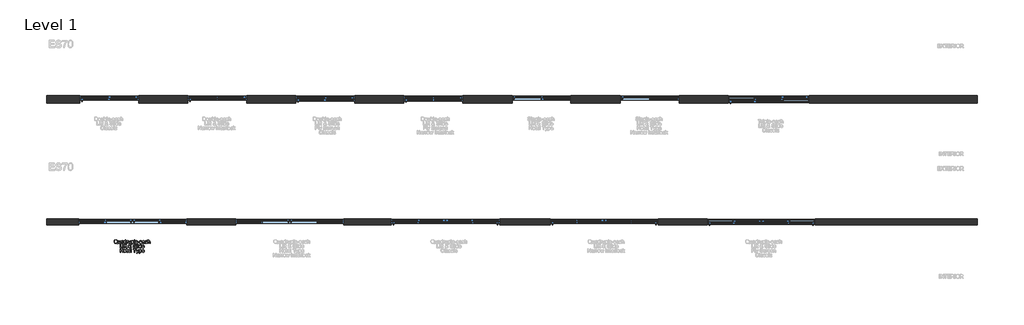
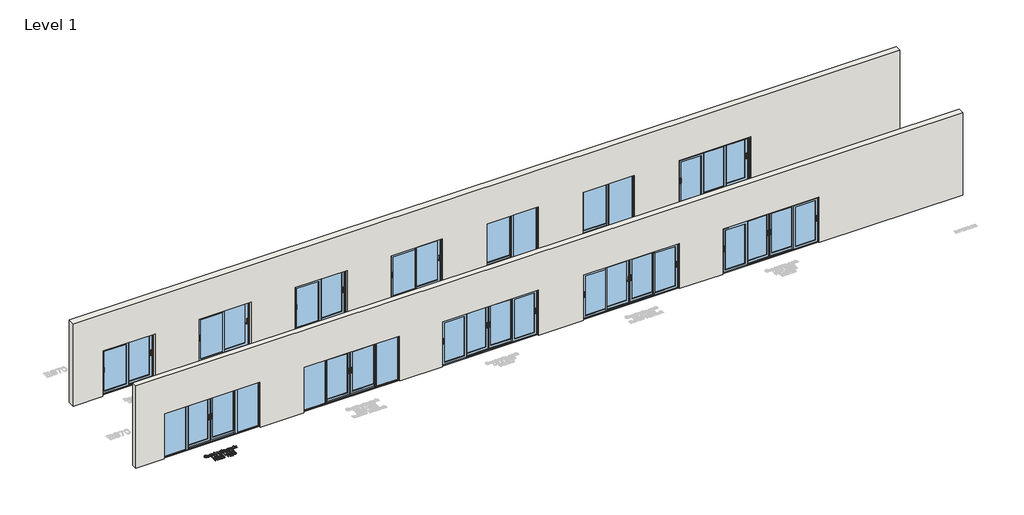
# One storey, part 1 of 13: 12 windows, 2 walls, 1 proxy.
"""IFC4 building model written with IfcOpenShell, lengths in millimetres."""

from ifc_helpers import new_model, si_unit, frame, origin, origin_with_axes, place, context, project, spatial, polyline, outline, extrude, transform, mapped, element, save
from components import type_1_3cdb790b, type_1_e79a48ff, type_1_cdd2e482, type_1_2f14744b, type_1_9f4e2c51, type_1_bc6504ef, type_1_4933372a, type_1_e41e581d, type_1_cbf24e59, type_1_9ca19b3c, type_1_95501515, type_1_6e610574, type_1_9b2b722f

model = new_model("IFC4")

# Units and contexts
model_context = context("Model", 3, world=origin())
ifc_project = project(units=[si_unit("LENGTHUNIT", "METRE", prefix="MILLI")], contexts=[model_context])

# Site, building, storey
site = spatial("IfcSite", under=ifc_project)
building = spatial("IfcBuilding", under=site)
storey = spatial("IfcBuildingStorey", under=building, Name="Level 1", Elevation=0.0)

# Proxy
placement = place(None, origin())
element("IfcBuildingElementProxy", 1, Name="150mm Arial", ObjectType="150mm Arial", at=placement, inside=storey, context=model_context, shape_type="SweptSolid", body=[
    extrude(outline(polyline([(-5302.9723357, -5879.5997474), (-5279.611829, -5895.3083086), (-5284.6886005, -5909.1038834), (-5315.7010527, -5891.4823358), (-5333.1294623, -5897.8834825), (-5352.3053113, -5900.0171981), (-5371.5731308, -5897.5569873), (-5388.9831462, -5890.1763547), (-5403.5650688, -5878.3397515), (-5414.3486097, -5862.5116287), (-5421.0118724, -5843.5611074), (-5423.2329599, -5822.3573089), (-5421.0164709, -5801.1351163), (-5414.3670038, -5781.9086836), (-5403.6248496, -5765.855233), (-5389.130299, -5754.151987), (-5371.7846629, -5747.0058793), (-5352.4892523, -5744.6238433), (-5333.0420903, -5747.0610616), (-5315.6090822, -5754.3727162), (-5301.1375243, -5766.0713637), (-5290.5747125, -5781.6695603), (-5284.1183835, -5800.3395715), (-5281.9662738, -5821.2536629), (-5287.1901981, -5854.1791015), (-5293.7476947, -5867.8367206), (-5302.9723357, -5879.5997474)]), holes=[polyline([(-5347.1181751, -5854.5469835), (-5331.2808552, -5860.534263), (-5318.4969559, -5868.8575931), (-5305.2256129, -5849.4334238), (-5300.8018319, -5822.2101561), (-5302.3653304, -5805.6324737), (-5307.0558259, -5791.2896744), (-5314.7583551, -5779.5450417), (-5325.3579551, -5770.7618591), (-5338.1372559, -5765.2850159), (-5352.3788877, -5763.4594015), (-5372.906703, -5767.152017), (-5389.6085456, -5778.2298636), (-5400.7001877, -5796.6377589), (-5404.3974018, -5822.3205207), (-5400.7415744, -5847.4514595), (-5389.7740925, -5865.9697195), (-5373.1228337, -5877.3786598), (-5352.4156759, -5881.18164), (-5332.1453779, -5877.318879), (-5351.9742175, -5868.9679577), (-5347.1181751, -5854.5469835)])]), origin_with_axes(), (0.0, 0.0, 1.0), 10.0),
    extrude(outline(polyline([(-5185.4340382, -5897.6627533), (-5185.4340382, -5878.6432542), (-5200.1861063, -5894.6737121), (-5219.4263346, -5900.0171981), (-5237.1398527, -5896.2648018), (-5249.3535349, -5886.8470227), (-5254.9637353, -5872.9778715), (-5256.0673813, -5855.4666885), (-5256.0673813, -5787.0038492), (-5237.2318232, -5787.0038492), (-5237.2318232, -5846.6007324), (-5236.091389, -5865.8041726), (-5228.6417786, -5877.0797557), (-5214.6070805, -5881.18164), (-5198.8801252, -5876.9877852), (-5188.4874588, -5865.5650493), (-5185.4340382, -5844.5773814), (-5185.4340382, -5787.0038492), (-5166.5984801, -5787.0038492), (-5166.5984801, -5897.6627533), (-5185.4340382, -5897.6627533)])), origin_with_axes(), (0.0, 0.0, 1.0), 10.0),
    extrude(outline(polyline([(-5070.0662446, -5883.5360847), (-5088.3315856, -5896.30159), (-5108.5099131, -5900.0171981), (-5124.2506639, -5897.782315), (-5135.8619394, -5891.0776656), (-5143.0218427, -5880.8965314), (-5145.4084772, -5868.2321937), (-5141.8032336, -5853.3329729), (-5132.3302722, -5842.5172423), (-5119.1417027, -5836.3368247), (-5102.8445303, -5833.5041334), (-5070.1766092, -5827.0294103), (-5070.0662446, -5822.8355555), (-5071.3630286, -5814.4294519), (-5075.2533807, -5808.9296161), (-5083.9537899, -5804.846126), (-5096.0755016, -5803.4849626), (-5115.131789, -5807.1086002), (-5124.2184742, -5819.966076), (-5143.0540324, -5817.6116312), (-5134.9054462, -5799.2175314), (-5118.4979092, -5788.438589), (-5093.6474804, -5784.6494044), (-5070.8204026, -5787.9971306), (-5057.9261387, -5796.4032342), (-5052.1503914, -5809.1871335), (-5051.2306864, -5825.6682469), (-5051.2306864, -5849.10233), (-5050.2741932, -5881.8254334), (-5046.5217969, -5897.6627533), (-5065.357355, -5897.6627533), (-5070.0662446, -5883.5360847)]), holes=[polyline([(-5070.0662446, -5845.8649684), (-5100.4532974, -5851.6407157), (-5116.6584992, -5854.6941363), (-5123.9977451, -5859.6605432), (-5126.572919, -5866.9078185), (-5120.9627186, -5877.0981498), (-5104.4999993, -5881.18164), (-5085.443712, -5876.6750855), (-5073.1564533, -5865.7673844), (-5070.1766092, -5851.1992574), (-5070.0662446, -5845.8649684)])]), origin_with_axes(), (0.0, 0.0, 1.0), 10.0),
    extrude(outline(polyline([(-4957.0528956, -5897.6627533), (-4957.0528956, -5879.894053), (-4969.5148982, -5894.9864118), (-4986.7409727, -5900.0171981), (-4998.9178667, -5898.1961822), (-5010.0646911, -5892.7331346), (-5019.5008643, -5884.0097328), (-5026.5458045, -5872.4076544), (-5030.9327973, -5858.3959489), (-5032.3951283, -5842.4436659), (-5027.005657, -5812.4612833), (-5020.2734165, -5800.5694978), (-5010.8556374, -5791.8231033), (-4999.4650912, -5786.4428292), (-4986.8145491, -5784.6494044), (-4969.4505189, -5789.7813583), (-4957.0528956, -5803.1170806), (-4957.0528956, -5746.9782881), (-4938.2173375, -5746.9782881), (-4938.2173375, -5897.6627533), (-4957.0528956, -5897.6627533)]), holes=[polyline([(-5013.5595701, -5842.3700895), (-5011.4350516, -5859.4076244), (-5005.061496, -5871.5247376), (-4995.8000668, -5878.7674144), (-4985.0119273, -5881.18164), (-4974.2283863, -5878.877779), (-4965.2014818, -5871.966196), (-4959.0900422, -5860.3181323), (-4957.0528956, -5843.8048292), (-4959.1268304, -5825.7510203), (-4965.3486346, -5813.2338354), (-4974.6054653, -5805.9221808), (-4985.7844795, -5803.4849626), (-4996.6829836, -5805.8256118), (-5005.613319, -5812.8475594), (-5011.5730073, -5824.9094903), (-5013.5595701, -5842.3700895)])]), origin_with_axes(), (0.0, 0.0, 1.0), 10.0),
    extrude(outline(polyline([(-4909.9640003, -5897.6627533), (-4909.9640003, -5787.0038492), (-4893.4828869, -5787.0038492), (-4893.4828869, -5803.374598), (-4881.7842394, -5788.2914362), (-4870.0120156, -5784.6494044), (-4851.102881, -5790.4619399), (-4857.3936631, -5807.3477235), (-4870.637415, -5803.4849626), (-4881.2875987, -5807.2005707), (-4888.0750215, -5817.5012666), (-4891.1284421, -5839.5006099), (-4891.1284421, -5897.6627533), (-4909.9640003, -5897.6627533)])), origin_with_axes(), (0.0, 0.0, 1.0), 10.0),
    extrude(outline(polyline([(-4768.6973141, -5897.6627533), (-4768.6973141, -5878.6432542), (-4783.4493821, -5894.6737121), (-4802.6896105, -5900.0171981), (-4820.4031285, -5896.2648018), (-4832.6168108, -5886.8470227), (-4838.2270112, -5872.9778715), (-4839.3306572, -5855.4666885), (-4839.3306572, -5787.0038492), (-4820.495099, -5787.0038492), (-4820.495099, -5846.6007324), (-4819.3546648, -5865.8041726), (-4811.9050544, -5877.0797557), (-4797.8703563, -5881.18164), (-4782.143401, -5876.9877852), (-4771.7507347, -5865.5650493), (-4768.6973141, -5844.5773814), (-4768.6973141, -5787.0038492), (-4749.861756, -5787.0038492), (-4749.861756, -5897.6627533), (-4768.6973141, -5897.6627533)])), origin_with_axes(), (0.0, 0.0, 1.0), 10.0),
    extrude(outline(polyline([(-4723.9628635, -5940.0427592), (-4723.9628635, -5787.0038492), (-4705.1273053, -5787.0038492), (-4705.1273053, -5805.4715254), (-4692.1042827, -5789.8549347), (-4674.5195233, -5784.6494044), (-4661.7816093, -5786.4704203), (-4650.6439819, -5791.9334679), (-4641.5756907, -5800.7074535), (-4635.0457853, -5812.4612833), (-4629.7850727, -5841.4871727), (-4631.2703963, -5857.5958055), (-4635.726367, -5872.0029842), (-4643.0104305, -5883.9775431), (-4652.9800325, -5892.7883169), (-4664.591308, -5898.2099778), (-4676.8003917, -5900.0171981), (-4693.1895346, -5895.1795499), (-4705.1273053, -5882.9474735), (-4705.1273053, -5940.0427592), (-4723.9628635, -5940.0427592)]), holes=[polyline([(-4705.1273053, -5843.2162181), (-4703.0901588, -5860.1020016), (-4696.9787192, -5871.9110137), (-4687.9610117, -5878.8639834), (-4677.2050619, -5881.18164), (-4666.2743681, -5878.7812099), (-4657.0267345, -5871.5799199), (-4650.7221568, -5859.3386465), (-4648.6206309, -5841.8182665), (-4650.671573, -5825.0244534), (-4656.8243994, -5813.0498945), (-4665.8283112, -5805.8761955), (-4676.4325097, -5803.4849626), (-4687.078095, -5806.0279469), (-4696.4268962, -5813.6568997), (-4702.952203, -5826.1326979), (-4705.1273053, -5843.2162181)])]), origin_with_axes(), (0.0, 0.0, 1.0), 10.0),
    extrude(outline(polyline([(-4608.5950698, -5897.6627533), (-4608.5950698, -5746.9782881), (-4589.7595117, -5746.9782881), (-4589.7595117, -5897.6627533), (-4608.5950698, -5897.6627533)])), origin_with_axes(), (0.0, 0.0, 1.0), 10.0),
    extrude(outline(polyline([(-4484.0302262, -5864.7005266), (-4465.5625501, -5867.0549713), (-4472.2166157, -5880.9701078), (-4482.8346098, -5891.3719712), (-4497.177409, -5897.8558914), (-4515.0058902, -5900.0171981), (-4537.1064011, -5896.2877944), (-4554.1117463, -5885.0995832), (-4564.9550681, -5867.1791315), (-4568.5695087, -5843.2530063), (-4564.9182799, -5818.5221391), (-4553.9645935, -5800.0268718), (-4537.1891745, -5788.4937713), (-4516.072748, -5784.6494044), (-4495.6139106, -5788.4845742), (-4479.2661544, -5799.9900836), (-4468.5469928, -5818.4485627), (-4464.9739389, -5843.1426417), (-4465.0843035, -5848.2194132), (-4549.7339506, -5848.2194132), (-4546.4735964, -5862.3184907), (-4538.8998258, -5872.6835659), (-4527.969132, -5879.0571214), (-4514.6380082, -5881.18164), (-4496.1703321, -5877.2453026), (-4484.0302262, -5864.7005266)]), holes=[polyline([(-4549.7339506, -5829.383855), (-4483.809497, -5829.383855), (-4486.3570799, -5819.4326471), (-4491.3510779, -5812.3141305), (-4502.3323555, -5805.6922545), (-4516.1463244, -5803.4849626), (-4528.8428518, -5805.2461976), (-4539.3412842, -5810.5299028), (-4546.6391433, -5818.765861), (-4549.7339506, -5829.383855)])]), origin_with_axes(), (0.0, 0.0, 1.0), 10.0),
    extrude(outline(polyline([(-4455.5561598, -5852.9283027), (-4455.5561598, -5834.0927446), (-4396.6950406, -5834.0927446), (-4396.6950406, -5852.9283027), (-4455.5561598, -5852.9283027)])), origin_with_axes(), (0.0, 0.0, 1.0), 10.0),
    extrude(outline(polyline([(-4382.568372, -5864.7005266), (-4363.7328138, -5862.3460818), (-4360.7621667, -5870.4026975), (-4355.0140105, -5876.3255976), (-4335.0380182, -5881.18164), (-4315.834578, -5876.7302678), (-4309.5805841, -5866.2824192), (-4311.1532797, -5861.4815591), (-4315.8713662, -5857.8211333), (-4335.2587474, -5852.4500561), (-4363.6224492, -5843.2346122), (-4376.0016784, -5832.4740638), (-4380.2139272, -5817.2805374), (-4376.8294128, -5803.2458393), (-4367.5955748, -5792.5220791), (-4355.6210158, -5786.9486669), (-4339.4158139, -5784.6494044), (-4316.4967656, -5788.3466185), (-4301.9286386, -5798.3530087), (-4295.4539155, -5815.2571864), (-4314.2894737, -5817.6116312), (-4321.3712021, -5807.2189648), (-4337.944286, -5803.4849626), (-4355.9705037, -5807.0534179), (-4361.3783691, -5815.367551), (-4359.1342889, -5820.8489927), (-4352.1077428, -5825.0060593), (-4335.8841468, -5829.015973), (-4308.2378148, -5837.8819291), (-4295.3987332, -5847.9251076), (-4290.745026, -5864.2958564), (-4296.2080736, -5882.3220741), (-4311.9718171, -5895.4002791), (-4335.2955356, -5900.0171981), (-4354.2874436, -5897.791512), (-4368.1473978, -5891.1144538), (-4377.3996299, -5880.0595999), (-4382.568372, -5864.7005266)])), origin_with_axes(), (0.0, 0.0, 1.0), 10.0),
    extrude(outline(polyline([(-4198.92168, -5883.5360847), (-4217.187021, -5896.30159), (-4237.3653485, -5900.0171981), (-4253.1060993, -5897.782315), (-4264.7173748, -5891.0776656), (-4271.8772781, -5880.8965314), (-4274.2639126, -5868.2321937), (-4270.658669, -5853.3329729), (-4261.1857077, -5842.5172423), (-4247.9971381, -5836.3368247), (-4231.6999658, -5833.5041334), (-4199.0320446, -5827.0294103), (-4198.92168, -5822.8355555), (-4200.218464, -5814.4294519), (-4204.1088161, -5808.9296161), (-4212.8092253, -5804.846126), (-4224.930937, -5803.4849626), (-4243.9872244, -5807.1086002), (-4253.0739097, -5819.966076), (-4271.9094678, -5817.6116312), (-4263.7608816, -5799.2175314), (-4247.3533446, -5788.438589), (-4222.5029159, -5784.6494044), (-4199.6758381, -5787.9971306), (-4186.7815741, -5796.4032342), (-4181.0058268, -5809.1871335), (-4180.0861218, -5825.6682469), (-4180.0861218, -5849.10233), (-4179.1296286, -5881.8254334), (-4175.3772323, -5897.6627533), (-4194.2127904, -5897.6627533), (-4198.92168, -5883.5360847)]), holes=[polyline([(-4198.92168, -5845.8649684), (-4229.3087328, -5851.6407157), (-4245.5139347, -5854.6941363), (-4252.8531805, -5859.6605432), (-4255.4283544, -5866.9078185), (-4249.818154, -5877.0981498), (-4233.3554347, -5881.18164), (-4214.2991474, -5876.6750855), (-4202.0118887, -5865.7673844), (-4199.0320446, -5851.1992574), (-4198.92168, -5845.8649684)])]), origin_with_axes(), (0.0, 0.0, 1.0), 10.0),
    extrude(outline(polyline([(-4161.2505637, -5864.7005266), (-4142.4150055, -5862.3460818), (-4139.4443584, -5870.4026975), (-4133.6962022, -5876.3255976), (-4113.7202099, -5881.18164), (-4094.5167697, -5876.7302678), (-4088.2627758, -5866.2824192), (-4089.8354714, -5861.4815591), (-4094.5535579, -5857.8211333), (-4113.9409391, -5852.4500561), (-4142.3046409, -5843.2346122), (-4154.6838701, -5832.4740638), (-4158.8961189, -5817.2805374), (-4155.5116045, -5803.2458393), (-4146.2777665, -5792.5220791), (-4134.3032075, -5786.9486669), (-4118.0980056, -5784.6494044), (-4095.1789573, -5788.3466185), (-4080.6108303, -5798.3530087), (-4074.1361072, -5815.2571864), (-4092.9716654, -5817.6116312), (-4100.0533938, -5807.2189648), (-4116.6264777, -5803.4849626), (-4134.6526954, -5807.0534179), (-4140.0605608, -5815.367551), (-4137.8164806, -5820.8489927), (-4130.7899345, -5825.0060593), (-4114.5663385, -5829.015973), (-4086.9200065, -5837.8819291), (-4074.0809249, -5847.9251076), (-4069.4272177, -5864.2958564), (-4074.8902653, -5882.3220741), (-4090.6540088, -5895.4002791), (-4113.9777273, -5900.0171981), (-4132.9696353, -5897.791512), (-4146.8295895, -5891.1144538), (-4156.0818216, -5880.0595999), (-4161.2505637, -5864.7005266)])), origin_with_axes(), (0.0, 0.0, 1.0), 10.0),
    extrude(outline(polyline([(-4048.2372148, -5897.6627533), (-4048.2372148, -5746.9782881), (-4029.4016566, -5746.9782881), (-4029.4016566, -5802.3813166), (-4014.7139679, -5789.0823825), (-3996.6233708, -5784.6494044), (-3975.4701561, -5789.4870527), (-3962.6310745, -5802.8595632), (-3958.7683135, -5827.6180215), (-3958.7683135, -5897.6627533), (-3977.6038717, -5897.6627533), (-3977.6038717, -5829.567796), (-3979.1029908, -5817.7771781), (-3983.6003482, -5809.7021683), (-3990.8476235, -5805.039264), (-4000.5964964, -5803.4849626), (-4016.0291461, -5807.6788173), (-4026.3298419, -5819.046371), (-4029.4016566, -5838.8752105), (-4029.4016566, -5897.6627533), (-4048.2372148, -5897.6627533)])), origin_with_axes(), (0.0, 0.0, 1.0), 10.0),
    extrude(outline(polyline([(-5174.8390368, -6080.6249801), (-5174.8390368, -5929.9405149), (-5156.0034786, -5929.9405149), (-5156.0034786, -6061.789422), (-5080.661246, -6061.789422), (-5080.661246, -6080.6249801), (-5174.8390368, -6080.6249801)])), origin_with_axes(), (0.0, 0.0, 1.0), 10.0),
    extrude(outline(polyline([(-5061.8256879, -5948.776073), (-5061.8256879, -5929.9405149), (-5042.9901297, -5929.9405149), (-5042.9901297, -5948.776073), (-5061.8256879, -5948.776073)])), origin_with_axes(), (0.0, 0.0, 1.0), 10.0),
    extrude(outline(polyline([(-5061.8256879, -6080.6249801), (-5061.8256879, -5969.966076), (-5042.9901297, -5969.966076), (-5042.9901297, -6080.6249801), (-5061.8256879, -6080.6249801)])), origin_with_axes(), (0.0, 0.0, 1.0), 10.0),
    extrude(outline(polyline([(-4913.4956674, -6064.9164189), (-4911.1412226, -6081.1768031), (-4925.2311031, -6082.9794249), (-4941.0132407, -6079.8524279), (-4948.8859153, -6071.6486594), (-4951.1667837, -6050.2747155), (-4951.1667837, -5988.8016341), (-4965.2934523, -5988.8016341), (-4965.2934523, -5969.966076), (-4951.1667837, -5969.966076), (-4951.1667837, -5943.0739021), (-4932.3312256, -5932.0006541), (-4932.3312256, -5969.966076), (-4913.4956674, -5969.966076), (-4913.4956674, -5988.8016341), (-4932.3312256, -5988.8016341), (-4932.3312256, -6049.7228925), (-4931.3379442, -6059.4349772), (-4928.1189767, -6062.8746738), (-4921.6994359, -6064.1438667), (-4913.4956674, -6064.9164189)])), origin_with_axes(), (0.0, 0.0, 1.0), 10.0),
    extrude(outline(polyline([(-5010.0279029, -6080.6249801), (-5010.0279029, -5988.8016341), (-5026.5090163, -5988.8016341), (-5026.5090163, -5969.966076), (-5010.0279029, -5969.966076), (-5010.0279029, -5958.8192515), (-5008.0413402, -5943.1106903), (-4998.4028319, -5931.8902895), (-4979.4201209, -5927.5860701), (-4962.2400318, -5929.6462093), (-4964.9991467, -5947.3045451), (-4975.8516656, -5946.4216283), (-4987.7158599, -5949.5486252), (-4991.1923448, -5961.2104845), (-4991.1923448, -5969.966076), (-4970.0023419, -5969.966076), (-4970.0023419, -5988.8016341), (-4991.1923448, -5988.8016341), (-4991.1923448, -6080.6249801), (-5010.0279029, -6080.6249801)])), origin_with_axes(), (0.0, 0.0, 1.0), 10.0),
    extrude(outline(polyline([(-4749.3835094, -6062.0101512), (-4769.3595017, -6077.7371064), (-4792.7200084, -6082.9794249), (-4813.5053411, -6079.0982698), (-4829.5082079, -6067.4548047), (-4837.7579617, -6054.054703), (-4840.5078796, -6039.1646793), (-4838.2959891, -6025.9669127), (-4831.6603176, -6014.1119154), (-4820.6284563, -6003.6088844), (-4805.2279962, -5994.4670168), (-4818.3797776, -5975.4107295), (-4821.6723214, -5961.2840609), (-4819.0787533, -5948.5645409), (-4811.2980492, -5937.6292486), (-4799.5902047, -5930.0968647), (-4785.2152157, -5927.5860701), (-4771.5392025, -5929.9865001), (-4760.6039102, -5937.1877902), (-4753.4302113, -5947.7552005), (-4751.0389783, -5960.2539913), (-4752.8094104, -5970.7478252), (-4758.1207067, -5980.4507128), (-4779.365892, -5997.4836492), (-4752.1058361, -6031.4391574), (-4743.975644, -6010.5802482), (-4725.1400859, -6014.6637384), (-4738.4574141, -6045.6761906), (-4715.7223068, -6068.4848743), (-4729.8489754, -6082.9794249), (-4749.3835094, -6062.0101512)]), holes=[polyline([(-4788.8940356, -5985.6010608), (-4773.4062036, -5973.9208074), (-4769.8745365, -5962.8291653), (-4774.5282437, -5951.0017591), (-4786.1717089, -5946.4216283), (-4798.0726914, -5950.9649709), (-4802.8367633, -5962.0566131), (-4801.2180825, -5968.9544005), (-4796.3252519, -5976.6247401), (-4788.8940356, -5985.6010608)]), polyline([(-4762.0018618, -6048.4353055), (-4795.6262762, -6006.4599699), (-4816.3196384, -6022.2421075), (-4821.6723214, -6036.6630817), (-4819.8421085, -6045.5474319), (-4814.3514697, -6054.7628758), (-4805.5039077, -6061.798619), (-4793.6029252, -6064.1438667), (-4776.2940773, -6059.766071), (-4762.0018618, -6048.4353055)])]), origin_with_axes(), (0.0, 0.0, 1.0), 10.0),
    extrude(outline(polyline([(-4642.734519, -6028.8271952), (-4623.8989608, -6028.8271952), (-4617.8289079, -6047.6811474), (-4603.0032635, -6059.6005241), (-4580.415309, -6064.1438667), (-4560.7336222, -6060.7041701), (-4548.0232993, -6051.2496028), (-4543.8478387, -6038.6128563), (-4546.9748356, -6026.8590265), (-4559.777129, -6018.3057701), (-4587.2027318, -6011.1136771), (-4616.7252619, -6001.8246567), (-4632.7465228, -5987.8083527), (-4638.0256294, -5969.0831592), (-4636.3931531, -5958.0512978), (-4631.495724, -5947.7643976), (-4623.4621009, -5939.0455943), (-4612.4210426, -5932.7180239), (-4584.4987991, -5927.5860701), (-4554.7003575, -5932.9571472), (-4543.2776216, -5939.5882202), (-4534.8347298, -5948.7392848), (-4529.4912438, -5959.840124), (-4527.3667253, -5972.3205207), (-4546.2022834, -5972.3205207), (-4549.6603742, -5961.0817258), (-4556.8708613, -5952.9699278), (-4568.1372474, -5948.0587031), (-4583.7630351, -5946.4216283), (-4599.7567049, -5948.040309), (-4610.7287854, -5952.8963514), (-4617.0747498, -5960.0424591), (-4619.1900713, -5968.5313362), (-4617.6909521, -5975.7694144), (-4613.1935947, -5981.591147), (-4582.43866, -5992.1125721), (-4549.1085512, -6001.5671393), (-4538.3709955, -6008.4005474), (-4530.8799983, -6016.8342421), (-4526.47921, -6026.7762531), (-4525.0122805, -6038.1346097), (-4526.6999392, -6049.7458851), (-4531.7629151, -6060.6673819), (-4539.9942748, -6070.0667668), (-4551.1870845, -6077.1117071), (-4564.646967, -6081.5124954), (-4579.679545, -6082.9794249), (-4598.1334256, -6081.3975323), (-4613.3223534, -6076.6518546), (-4625.4210726, -6068.7239976), (-4634.6043269, -6057.5955672), (-4640.4996358, -6044.0391157), (-4642.734519, -6028.8271952)])), origin_with_axes(), (0.0, 0.0, 1.0), 10.0),
    extrude(outline(polyline([(-4499.113388, -6080.6249801), (-4499.113388, -5929.9405149), (-4480.2778299, -5929.9405149), (-4480.2778299, -6080.6249801), (-4499.113388, -6080.6249801)])), origin_with_axes(), (0.0, 0.0, 1.0), 10.0),
    extrude(outline(polyline([(-4452.0244927, -5948.776073), (-4452.0244927, -5929.9405149), (-4433.1889345, -5929.9405149), (-4433.1889345, -5948.776073), (-4452.0244927, -5948.776073)])), origin_with_axes(), (0.0, 0.0, 1.0), 10.0),
    extrude(outline(polyline([(-4452.0244927, -6080.6249801), (-4452.0244927, -5969.966076), (-4433.1889345, -5969.966076), (-4433.1889345, -6080.6249801), (-4452.0244927, -6080.6249801)])), origin_with_axes(), (0.0, 0.0, 1.0), 10.0),
    extrude(outline(polyline([(-4336.656699, -6080.6249801), (-4336.656699, -6062.8562797), (-4349.1187016, -6077.9486386), (-4366.344776, -6082.9794249), (-4378.52167, -6081.158409), (-4389.6684945, -6075.6953614), (-4399.1046677, -6066.9719596), (-4406.1496079, -6055.3698811), (-4410.5366007, -6041.3581756), (-4411.9989316, -6025.4058926), (-4406.6094604, -5995.42351), (-4399.8772198, -5983.5317245), (-4390.4594408, -5974.7853301), (-4379.0688945, -5969.4050559), (-4366.4183524, -5967.6116312), (-4349.0543222, -5972.743585), (-4336.656699, -5986.0793073), (-4336.656699, -5929.9405149), (-4317.8211408, -5929.9405149), (-4317.8211408, -6080.6249801), (-4336.656699, -6080.6249801)]), holes=[polyline([(-4393.1633734, -6025.3323162), (-4391.0388549, -6042.3698511), (-4384.6652993, -6054.4869644), (-4375.4038701, -6061.7296411), (-4364.6157306, -6064.1438667), (-4353.8321896, -6061.8400057), (-4344.8052852, -6054.9284227), (-4338.6938455, -6043.2803591), (-4336.656699, -6026.767056), (-4338.7306337, -6008.7132471), (-4344.952438, -5996.1960622), (-4354.2092687, -5988.8844076), (-4365.3882828, -5986.4471893), (-4376.2867869, -5988.7878385), (-4385.2171223, -5995.8097861), (-4391.1768107, -6007.871717), (-4393.1633734, -6025.3323162)])]), origin_with_axes(), (0.0, 0.0, 1.0), 10.0),
    extrude(outline(polyline([(-4212.0918554, -6047.6627533), (-4193.6241792, -6050.0171981), (-4200.2782448, -6063.9323346), (-4210.8962389, -6074.334198), (-4225.2390382, -6080.8181182), (-4243.0675194, -6082.9794249), (-4265.1680303, -6079.2500212), (-4282.1733755, -6068.06181), (-4293.0166973, -6050.1413583), (-4296.6311379, -6026.215233), (-4292.9799091, -6001.4843659), (-4282.0262227, -5982.9890986), (-4265.2508037, -5971.455998), (-4244.1343772, -5967.6116312), (-4223.6755397, -5971.446801), (-4207.3277836, -5982.9523104), (-4196.6086219, -6001.4107895), (-4193.0355681, -6026.1048684), (-4193.1459327, -6031.18164), (-4277.7955797, -6031.18164), (-4274.5352256, -6045.2807174), (-4266.961455, -6055.6457926), (-4256.0307612, -6062.0193482), (-4242.6996374, -6064.1438667), (-4224.2319612, -6060.2075294), (-4212.0918554, -6047.6627533)]), holes=[polyline([(-4277.7955797, -6012.3460818), (-4211.8711262, -6012.3460818), (-4214.418709, -6002.3948738), (-4219.4127071, -5995.2763572), (-4230.3939847, -5988.6544813), (-4244.2079536, -5986.4471893), (-4256.9044809, -5988.2084244), (-4267.4029134, -5993.4921296), (-4274.7007725, -6001.7280877), (-4277.7955797, -6012.3460818)])]), origin_with_axes(), (0.0, 0.0, 1.0), 10.0),
    extrude(outline(polyline([(-5176.0162592, -6263.5872069), (-5176.0162592, -6112.9027417), (-5157.180701, -6112.9027417), (-5157.180701, -6174.1183057), (-5077.1295789, -6174.1183057), (-5077.1295789, -6112.9027417), (-5058.2940207, -6112.9027417), (-5058.2940207, -6263.5872069), (-5077.1295789, -6263.5872069), (-5077.1295789, -6192.9538638), (-5157.180701, -6192.9538638), (-5157.180701, -6263.5872069), (-5176.0162592, -6263.5872069)])), origin_with_axes(), (0.0, 0.0, 1.0), 10.0),
    extrude(outline(polyline([(-5032.3951283, -6208.2577548), (-5028.3208352, -6181.5771131), (-5016.0979559, -6162.8243284), (-5000.9964, -6153.6364756), (-4982.9149999, -6150.573858), (-4963.1275471, -6154.3032617), (-4947.3224169, -6165.4914729), (-4936.9619402, -6183.2555747), (-4933.5084479, -6206.7126504), (-4935.0351582, -6225.7413466), (-4939.6152891, -6240.2267002), (-4947.1154832, -6251.0746205), (-4957.4023835, -6259.191017), (-4969.6206643, -6264.253993), (-4982.9149999, -6265.9416516), (-5002.941576, -6262.2260435), (-5018.7283121, -6251.079219), (-5028.9784242, -6232.9426367), (-5032.3951283, -6208.2577548)]), holes=[polyline([(-5013.5595701, -6208.2209666), (-5011.3798693, -6225.2676986), (-5004.8407668, -6237.4124029), (-4994.9999234, -6244.6826709), (-4982.9149999, -6247.1060935), (-4970.8852587, -6244.6688753), (-4961.0628094, -6237.3572206), (-4954.5237069, -6225.0515679), (-4952.3440061, -6207.6323554), (-4954.5375025, -6191.0822642), (-4961.1179917, -6179.1031067), (-4970.9542365, -6171.8328388), (-4982.9149999, -6169.4094161), (-4994.9999234, -6171.8236417), (-5004.8407668, -6179.0663185), (-5011.3798693, -6191.1834317), (-5013.5595701, -6208.2209666)])]), origin_with_axes(), (0.0, 0.0, 1.0), 10.0),
    extrude(outline(polyline([(-4872.292884, -6247.8786457), (-4869.9384392, -6264.1390299), (-4884.0283196, -6265.9416516), (-4899.8104572, -6262.8146547), (-4907.6831319, -6254.6108862), (-4909.9640003, -6233.2369423), (-4909.9640003, -6171.7638609), (-4924.0906689, -6171.7638609), (-4924.0906689, -6152.9283027), (-4909.9640003, -6152.9283027), (-4909.9640003, -6126.0361289), (-4891.1284421, -6114.9628808), (-4891.1284421, -6152.9283027), (-4872.292884, -6152.9283027), (-4872.292884, -6171.7638609), (-4891.1284421, -6171.7638609), (-4891.1284421, -6232.6851193), (-4890.1351607, -6242.397204), (-4886.9161933, -6245.8369006), (-4880.4966524, -6247.1060935), (-4872.292884, -6247.8786457)])), origin_with_axes(), (0.0, 0.0, 1.0), 10.0),
    extrude(outline(polyline([(-4775.9813776, -6230.6249801), (-4757.5137015, -6232.9794249), (-4764.167767, -6246.8945613), (-4774.7857611, -6257.2964248), (-4789.1285604, -6263.7803449), (-4806.9570416, -6265.9416516), (-4829.0575525, -6262.2122479), (-4846.0628977, -6251.0240367), (-4856.9062195, -6233.1035851), (-4860.5206601, -6209.1774598), (-4856.8694313, -6184.4465927), (-4845.9157449, -6165.9513254), (-4829.1403259, -6154.4182248), (-4808.0238994, -6150.573858), (-4787.5650619, -6154.4090278), (-4771.2173058, -6165.9145372), (-4760.4981441, -6184.3730163), (-4756.9250903, -6209.0670952), (-4757.0354549, -6214.1438667), (-4841.685102, -6214.1438667), (-4838.4247478, -6228.2429442), (-4830.8509772, -6238.6080194), (-4819.9202834, -6244.981575), (-4806.5891596, -6247.1060935), (-4788.1214835, -6243.1697561), (-4775.9813776, -6230.6249801)]), holes=[polyline([(-4841.685102, -6195.3083086), (-4775.7606484, -6195.3083086), (-4778.3082312, -6185.3571006), (-4783.3022293, -6178.238584), (-4794.2835069, -6171.6167081), (-4808.0974758, -6169.4094161), (-4820.7940032, -6171.1706512), (-4831.2924356, -6176.4543563), (-4838.5902947, -6184.6903145), (-4841.685102, -6195.3083086)])]), origin_with_axes(), (0.0, 0.0, 1.0), 10.0),
    extrude(outline(polyline([(-4738.0895321, -6263.5872069), (-4738.0895321, -6112.9027417), (-4719.253974, -6112.9027417), (-4719.253974, -6263.5872069), (-4738.0895321, -6263.5872069)])), origin_with_axes(), (0.0, 0.0, 1.0), 10.0),
    extrude(outline(polyline([(-4592.1139564, -6263.5872069), (-4592.1139564, -6131.7382998), (-4641.5572966, -6131.7382998), (-4641.5572966, -6112.9027417), (-4523.8350581, -6112.9027417), (-4523.8350581, -6131.7382998), (-4573.2783983, -6131.7382998), (-4573.2783983, -6263.5872069), (-4592.1139564, -6263.5872069)])), origin_with_axes(), (0.0, 0.0, 1.0), 10.0),
    extrude(outline(polyline([(-4504.9995, -6305.9672127), (-4507.3539447, -6287.8306304), (-4497.7890129, -6289.4860993), (-4488.8494804, -6287.4075661), (-4483.3680387, -6281.6134246), (-4478.2176907, -6267.7442734), (-4476.7461627, -6263.1825367), (-4516.7717238, -6152.9283027), (-4496.9060961, -6152.9283027), (-4475.679305, -6214.3645959), (-4468.2848768, -6238.9391132), (-4460.8904487, -6217.2340755), (-4439.0750464, -6152.9283027), (-4419.3565715, -6152.9283027), (-4457.8738164, -6266.2359572), (-4467.8802067, -6290.8104745), (-4478.8063019, -6304.0910145), (-4493.4847935, -6308.3216575), (-4504.9995, -6305.9672127)])), origin_with_axes(), (0.0, 0.0, 1.0), 10.0),
    extrude(outline(polyline([(-4403.7583749, -6305.9672127), (-4403.7583749, -6152.9283027), (-4384.9228167, -6152.9283027), (-4384.9228167, -6171.3959789), (-4371.8997941, -6155.7793882), (-4354.3150347, -6150.573858), (-4341.5771207, -6152.3948738), (-4330.4394933, -6157.8579215), (-4321.3712021, -6166.631907), (-4314.8412967, -6178.3857368), (-4309.5805841, -6207.4116262), (-4311.0659077, -6223.5202591), (-4315.5218784, -6237.9274377), (-4322.8059419, -6249.9019967), (-4332.7755439, -6258.7127704), (-4344.3868194, -6264.1344313), (-4356.5959031, -6265.9416516), (-4372.985046, -6261.1040034), (-4384.9228167, -6248.8719271), (-4384.9228167, -6305.9672127), (-4403.7583749, -6305.9672127)]), holes=[polyline([(-4384.9228167, -6209.1406716), (-4382.8856702, -6226.0264552), (-4376.7742305, -6237.8354672), (-4367.7565231, -6244.7884369), (-4357.0005733, -6247.1060935), (-4346.0698795, -6244.7056635), (-4336.8222459, -6237.5043734), (-4330.5176682, -6225.2631), (-4328.4161423, -6207.74272), (-4330.4670844, -6190.9489069), (-4336.6199108, -6178.974348), (-4345.6238226, -6171.8006491), (-4356.2280211, -6169.4094161), (-4366.8736064, -6171.9524004), (-4376.2224076, -6179.5813533), (-4382.7477144, -6192.0571514), (-4384.9228167, -6209.1406716)])]), origin_with_axes(), (0.0, 0.0, 1.0), 10.0),
    extrude(outline(polyline([(-4210.914633, -6230.6249801), (-4192.4469569, -6232.9794249), (-4199.1010225, -6246.8945613), (-4209.7190165, -6257.2964248), (-4224.0618158, -6263.7803449), (-4241.890297, -6265.9416516), (-4263.9908079, -6262.2122479), (-4280.9961531, -6251.0240367), (-4291.8394749, -6233.1035851), (-4295.4539155, -6209.1774598), (-4291.8026867, -6184.4465927), (-4280.8490003, -6165.9513254), (-4264.0735813, -6154.4182248), (-4242.9571548, -6150.573858), (-4222.4983173, -6154.4090278), (-4206.1505612, -6165.9145372), (-4195.4313996, -6184.3730163), (-4191.8583457, -6209.0670952), (-4191.9687103, -6214.1438667), (-4276.6183574, -6214.1438667), (-4273.3580032, -6228.2429442), (-4265.7842326, -6238.6080194), (-4254.8535388, -6244.981575), (-4241.522415, -6247.1060935), (-4223.0547389, -6243.1697561), (-4210.914633, -6230.6249801)]), holes=[polyline([(-4276.6183574, -6195.3083086), (-4210.6939038, -6195.3083086), (-4213.2414866, -6185.3571006), (-4218.2354847, -6178.238584), (-4229.2167623, -6171.6167081), (-4243.0307312, -6169.4094161), (-4255.7272586, -6171.1706512), (-4266.225691, -6176.4543563), (-4273.5235501, -6184.6903145), (-4276.6183574, -6195.3083086)])]), origin_with_axes(), (0.0, 0.0, 1.0), 10.0),
])

# Walls
element("IfcWall", 2, ObjectType="Generic - 250mm", at=placement, inside=storey, context=model_context, shape_type="SweptSolid", body=[
    extrude(outline(polyline([(0.0, 29728.8745979), (4000.0, 29728.8745979), (4000.0, -8171.1254021), (0.0, -8171.1254021), (0.0, -6869.1254021), (2200.0, -6869.1254021), (2200.0, -2469.1254021), (0.0, -2469.1254021), (0.0, -469.1254021), (2200.0, -469.1254021), (2200.0, 3930.8745979), (0.0, 3930.8745979), (0.0, 5871.0558743), (2200.0, 5871.0558743), (2200.0, 10271.0558743), (0.0, 10271.0558743), (0.0, 12330.8745979), (2200.0, 12330.8745979), (2200.0, 16730.8745979), (0.0, 16730.8745979), (0.0, 18730.9393295), (2200.0, 18730.9393295), (2200.0, 23130.9393295), (0.0, 23130.9393295), (0.0, 29728.8745979)])), frame((0.0, -5143.0546028, 0.0), z_axis=(0.0, 1.0, 0.0), x_axis=(0.0, 0.0, 1.0)), (0.0, 0.0, 1.0), 250.0),
])
element("IfcWall", 3, ObjectType="Generic - 300mm", at=placement, inside=storey, context=model_context, shape_type="SweptSolid", body=[
    extrude(outline(polyline([(0.0, 29728.8745979), (4000.0, 29728.8745979), (4000.0, -8171.1254021), (0.0, -8171.1254021), (0.0, -6821.1254021), (2200.0, -6821.1254021), (2200.0, -4421.1254021), (0.0, -4421.1254021), (0.0, -2421.1254021), (2200.0, -2421.1254021), (2200.0, -21.1254021), (0.0, -21.1254021), (0.0, 1978.8745979), (2200.0, 1978.8745979), (2200.0, 4378.8745979), (0.0, 4378.8745979), (0.0, 6378.8745979), (2200.0, 6378.8745979), (2200.0, 8778.8745979), (0.0, 8778.8745979), (0.0, 10778.8745979), (2200.0, 10778.8745979), (2200.0, 13178.8745979), (0.0, 13178.8745979), (0.0, 15178.8745979), (2200.0, 15178.8745979), (2200.0, 17578.8745979), (0.0, 17578.8745979), (0.0, 19578.9554319), (2200.0, 19578.9554319), (2200.0, 22878.9554319), (0.0, 22878.9554319), (0.0, 29728.8745979)])), frame((0.0, -168.0546028, 0.0), z_axis=(0.0, 1.0, 0.0), x_axis=(0.0, 0.0, 1.0)), (0.0, 0.0, 1.0), 300.0),
])

# Windows
type_1_shape = type_1_3cdb790b(model_context)
element("IfcWindow", 4, ObjectType="ETEM_ES70_Single_Lift_Sliding_HT_NI : Type 1", at=placement, inside=storey, context=model_context, shape_type="MappedRepresentation", body=[
    mapped(type_1_shape, transform((16378.8745979, -18.0546028, 0.0), x_axis=(1.0, 0.0, 0.0), y_axis=(0.0, 1.0, 0.0), z_axis=(0.0, 0.0, 1.0))),
])
type_1_2_shape = type_1_e79a48ff(model_context)
element("IfcWindow", 5, ObjectType="ETEM_ES70_Single_Lift_Sliding_HT : Type 1", at=placement, inside=storey, context=model_context, shape_type="MappedRepresentation", body=[
    mapped(type_1_2_shape, transform((11978.8745979, -18.0546028, 0.0), x_axis=(1.0, 0.0, 0.0), y_axis=(0.0, 1.0, 0.0), z_axis=(0.0, 0.0, 1.0))),
])
type_1_3_shape = type_1_cdd2e482(model_context)
element("IfcWindow", 6, ObjectType="ETEM_ES70_Double_Fly Screen_NI_Lift_Sliding : Type 1", at=placement, inside=storey, context=model_context, shape_type="MappedRepresentation", body=[
    mapped(type_1_3_shape, transform((7578.8745979, -18.0546028, 0.0), x_axis=(1.0, 0.0, 0.0), y_axis=(0.0, 1.0, 0.0), z_axis=(0.0, 0.0, 1.0))),
])
type_1_4_shape = type_1_2f14744b(model_context)
element("IfcWindow", 7, ObjectType="ETEM_ES70_Double_Fly Screen_Lift_Sliding : Type 1", at=placement, inside=storey, context=model_context, shape_type="MappedRepresentation", body=[
    mapped(type_1_4_shape, transform((3178.8745979, -18.0546028, 0.0), x_axis=(1.0, 0.0, 0.0), y_axis=(0.0, 1.0, 0.0), z_axis=(0.0, 0.0, 1.0))),
])
type_1_5_shape = type_1_9f4e2c51(model_context)
element("IfcWindow", 8, ObjectType="ETEM_ES70_Double_Lift_Sliding : Type 1", at=placement, inside=storey, context=model_context, shape_type="MappedRepresentation", body=[
    mapped(type_1_5_shape, transform((-5621.1254021, -18.0546028, 0.0), x_axis=(1.0, 0.0, 0.0), y_axis=(0.0, 1.0, 0.0), z_axis=(0.0, 0.0, 1.0))),
])
type_1_6_shape = type_1_bc6504ef(model_context)
element("IfcWindow", 9, ObjectType="ETEM_ES70_Quadruple_Lift_Sliding_HT : Type 1", at=placement, inside=storey, context=model_context, shape_type="MappedRepresentation", body=[
    mapped(type_1_6_shape, transform((-4669.1254021, -5018.0546028, 0.0), x_axis=(1.0, 0.0, 0.0), y_axis=(0.0, 1.0, 0.0), z_axis=(0.0, 0.0, 1.0))),
])
type_1_7_shape = type_1_4933372a(model_context)
element("IfcWindow", 10, ObjectType="ETEM_ES70_Quadruple_Lift_Sliding_HT_NI : Type 1", at=placement, inside=storey, context=model_context, shape_type="MappedRepresentation", body=[
    mapped(type_1_7_shape, transform((1730.8745979, -5018.0546028, 0.0), x_axis=(1.0, 0.0, 0.0), y_axis=(0.0, 1.0, 0.0), z_axis=(0.0, 0.0, 1.0))),
])
type_1_8_shape = type_1_e41e581d(model_context)
element("IfcWindow", 11, ObjectType="ETEM_ES70_Quadruple_Lift_Sliding : Type 1", at=placement, inside=storey, context=model_context, shape_type="MappedRepresentation", body=[
    mapped(type_1_8_shape, transform((8071.0558743, -5018.0546028, 0.0), x_axis=(1.0, 0.0, 0.0), y_axis=(0.0, 1.0, 0.0), z_axis=(0.0, 0.0, 1.0))),
])
type_1_9_shape = type_1_cbf24e59(model_context)
element("IfcWindow", 12, ObjectType="ETEM_ES70_Quadruple_Lift_Sliding_NI : Type 1", at=placement, inside=storey, context=model_context, shape_type="MappedRepresentation", body=[
    mapped(type_1_9_shape, transform((14530.8745979, -5018.0546028, 0.0), x_axis=(1.0, 0.0, 0.0), y_axis=(0.0, 1.0, 0.0), z_axis=(0.0, 0.0, 1.0))),
])
type_1_10_shape = type_1_9ca19b3c(model_context)
type_1_11_shape = type_1_95501515(model_context)
element("IfcWindow", 13, ObjectType="ETEM_ES70_Quadruple_Fly Screen_Lift_Sliding : Type 1", at=placement, inside=storey, context=model_context, shape_type="MappedRepresentation", body=[
    mapped(type_1_10_shape, transform((20930.9393295, -5018.0546028, 0.0), x_axis=(1.0, 0.0, 0.0), y_axis=(0.0, 1.0, 0.0), z_axis=(0.0, 0.0, 1.0))),
    mapped(type_1_11_shape, transform((20930.9393295, -5018.0546028, 0.0), x_axis=(1.0, 0.0, 0.0), y_axis=(0.0, 1.0, 0.0), z_axis=(0.0, 0.0, 1.0))),
])
type_1_12_shape = type_1_6e610574(model_context)
element("IfcWindow", 14, ObjectType="ETEM_ES70_Double_Lift_Sliding_NI : Type 1", at=placement, inside=storey, context=model_context, shape_type="MappedRepresentation", body=[
    mapped(type_1_12_shape, transform((-1221.1254021, -19.1546028, 0.0), x_axis=(1.0, 0.0, 0.0), y_axis=(0.0, 1.0, 0.0), z_axis=(0.0, 0.0, 1.0))),
])
type_1_13_shape = type_1_9b2b722f(model_context)
element("IfcWindow", 15, ObjectType="ETEM_ES70_Triple_Lift_Sliding : Type 1", at=placement, inside=storey, context=model_context, shape_type="MappedRepresentation", body=[
    mapped(type_1_13_shape, transform((21228.9554319, -18.0546028, 0.0), x_axis=(1.0, 0.0, 0.0), y_axis=(0.0, 1.0, 0.0), z_axis=(0.0, 0.0, 1.0))),
])

save(model, "model.ifc")
